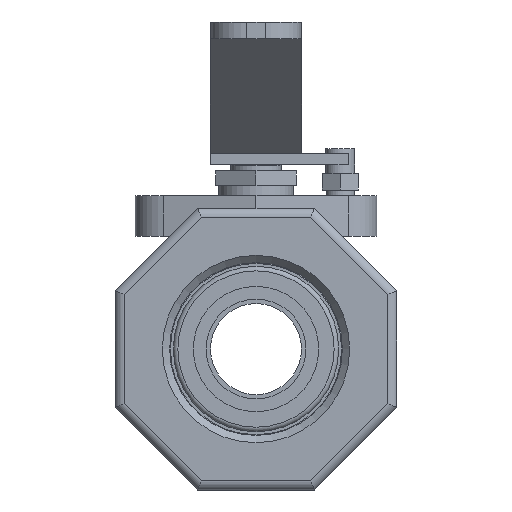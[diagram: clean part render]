
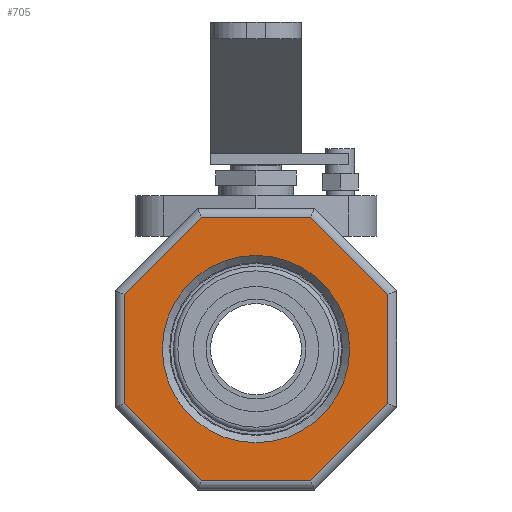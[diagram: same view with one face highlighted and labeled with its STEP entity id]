
A CAD part, left-side view. The second image highlights one B-rep face of the part: STEP entity #705.
In plain terms, the highlighted planar face has unit normal (-1, 0, 0).
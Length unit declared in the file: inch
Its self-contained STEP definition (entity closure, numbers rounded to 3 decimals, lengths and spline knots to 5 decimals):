
#325=CARTESIAN_POINT('',(0.59607,0.9045,0.37466));
#326=VERTEX_POINT('',#325);
#327=CARTESIAN_POINT('',(0.59607,0.37466,0.9045));
#328=VERTEX_POINT('',#327);
#329=CARTESIAN_POINT('',(0.59607,0.9045,0.37466));
#330=DIRECTION('',(0.0,-0.707,0.707));
#331=VECTOR('',#330,0.74931);
#332=LINE('',#329,#331);
#333=EDGE_CURVE('',#326,#328,#332,.T.);
#367=CARTESIAN_POINT('',(0.59607,-0.37466,0.9045));
#368=VERTEX_POINT('',#367);
#369=CARTESIAN_POINT('',(0.59607,0.37466,0.9045));
#370=DIRECTION('',(0.0,-1.0,0.0));
#371=VECTOR('',#370,0.74931);
#372=LINE('',#369,#371);
#373=EDGE_CURVE('',#328,#368,#372,.T.);
#399=CARTESIAN_POINT('',(0.59607,-0.9045,0.37466));
#400=VERTEX_POINT('',#399);
#401=CARTESIAN_POINT('',(0.59607,-0.37466,0.9045));
#402=DIRECTION('',(0.,-0.707,-0.707));
#403=VECTOR('',#402,0.74931);
#404=LINE('',#401,#403);
#405=EDGE_CURVE('',#368,#400,#404,.T.);
#431=CARTESIAN_POINT('',(0.59607,-0.9045,-0.37466));
#432=VERTEX_POINT('',#431);
#433=CARTESIAN_POINT('',(0.59607,-0.9045,0.37466));
#434=DIRECTION('',(0.0,0.0,-1.0));
#435=VECTOR('',#434,0.74931);
#436=LINE('',#433,#435);
#437=EDGE_CURVE('',#400,#432,#436,.T.);
#463=CARTESIAN_POINT('',(0.59607,-0.37466,-0.9045));
#464=VERTEX_POINT('',#463);
#465=CARTESIAN_POINT('',(0.59607,-0.9045,-0.37466));
#466=DIRECTION('',(0.0,0.707,-0.707));
#467=VECTOR('',#466,0.74931);
#468=LINE('',#465,#467);
#469=EDGE_CURVE('',#432,#464,#468,.T.);
#495=CARTESIAN_POINT('',(0.59607,0.37466,-0.9045));
#496=VERTEX_POINT('',#495);
#497=CARTESIAN_POINT('',(0.59607,-0.37466,-0.9045));
#498=DIRECTION('',(0.0,1.0,0.0));
#499=VECTOR('',#498,0.74931);
#500=LINE('',#497,#499);
#501=EDGE_CURVE('',#464,#496,#500,.T.);
#527=CARTESIAN_POINT('',(0.59607,0.9045,-0.37466));
#528=VERTEX_POINT('',#527);
#529=CARTESIAN_POINT('',(0.59607,0.37466,-0.9045));
#530=DIRECTION('',(0.,0.707,0.707));
#531=VECTOR('',#530,0.74931);
#532=LINE('',#529,#531);
#533=EDGE_CURVE('',#496,#528,#532,.T.);
#559=CARTESIAN_POINT('',(0.59607,0.9045,-0.37466));
#560=DIRECTION('',(0.0,0.0,1.0));
#561=VECTOR('',#560,0.74931);
#562=LINE('',#559,#561);
#563=EDGE_CURVE('',#528,#326,#562,.T.);
#679=CARTESIAN_POINT('',(0.59607,0.0,0.));
#680=DIRECTION('',(-1.0,0.0,0.0));
#681=DIRECTION('',(0.0,0.0,-1.0));
#682=AXIS2_PLACEMENT_3D('',#679,#680,#681);
#683=PLANE('',#682);
#684=ORIENTED_EDGE('',*,*,#333,.F.);
#685=ORIENTED_EDGE('',*,*,#563,.F.);
#686=ORIENTED_EDGE('',*,*,#533,.F.);
#687=ORIENTED_EDGE('',*,*,#501,.F.);
#688=ORIENTED_EDGE('',*,*,#469,.F.);
#689=ORIENTED_EDGE('',*,*,#437,.F.);
#690=ORIENTED_EDGE('',*,*,#405,.F.);
#691=ORIENTED_EDGE('',*,*,#373,.F.);
#692=EDGE_LOOP('',(#684,#685,#686,#687,#688,#689,#690,#691));
#693=FACE_OUTER_BOUND('',#692,.T.);
#694=CARTESIAN_POINT('',(0.59607,-0.6425,0.));
#695=VERTEX_POINT('',#694);
#696=CARTESIAN_POINT('',(0.59607,0.,0.));
#697=DIRECTION('',(-1.0,0.0,0.0));
#698=DIRECTION('',(0.0,1.0,0.0));
#699=AXIS2_PLACEMENT_3D('',#696,#697,#698);
#700=CIRCLE('',#699,0.6425);
#701=EDGE_CURVE('',#695,#695,#700,.T.);
#702=ORIENTED_EDGE('',*,*,#701,.F.);
#703=EDGE_LOOP('',(#702));
#704=FACE_BOUND('',#703,.T.);
#705=ADVANCED_FACE('',(#693,#704),#683,.T.);
